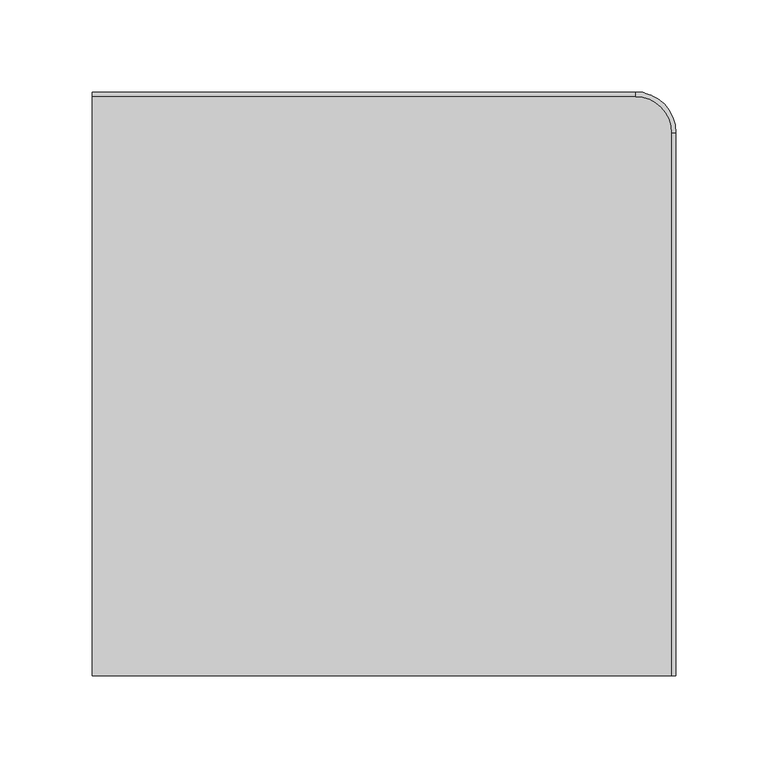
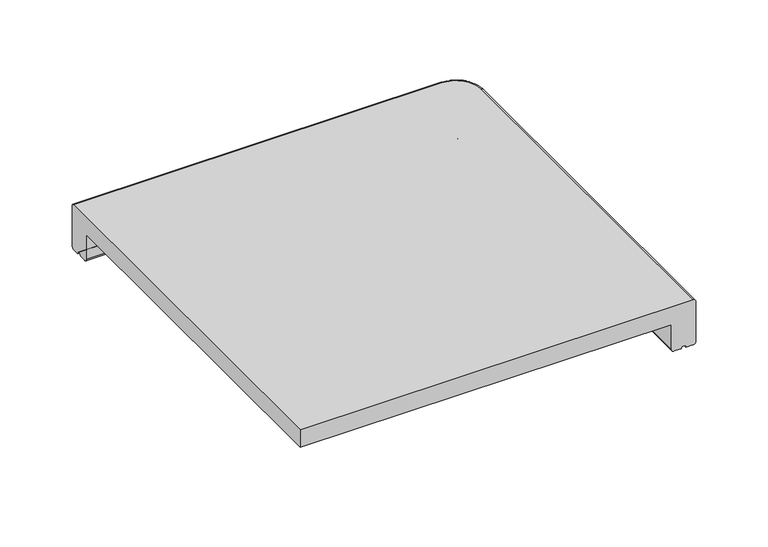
"""IFC4 building model written with IfcOpenShell, lengths in millimetres: proxy geometry, ROSA GRES_DL1 : Pieza DL1_Mistery_Grey_Anti-Slip."""

from ifc_helpers import new_model, si_unit, point, frame, origin, place, context, project, spatial, polyline, circle_curve, ellipse_curve, trimmed, source, transform, mapped, element, save
from ifc_brep_helpers import plane_surface, cylinder_surface, revolved_surface, advanced_brep


def generic_models_951569f7(model_context):
    return source(origin(), model_context, "Body", "AdvancedBrep", [
        advanced_brep(
        [(0.0, -317.0, 38.0), (0.0, -2.5, 38.0), (0.0, 0.0, 35.5), (0.0, 0.0, 2.5), (0.0, -2.5, 0.0), (0.0, -8.1382138, 0.0), (0.0, -11.8617862, 0.0), (0.0, -17.5, 0.0), (0.0, -20.0, 2.5), (0.0, -20.0, 23.2451288), (0.0, -317.0, 23.2451288), (314.5, -317.0, 38.0), (314.5, -22.0, 38.0), (295.0, -2.5, 38.0), (295.0, -20.0, 2.5), (295.0, -20.0, 23.2451288), (295.0, -17.5, 0.0), (295.0, -11.8617862, 0.0), (305.1382138, -22.0, 0.0), (305.1382138, -317.0, 0.0), (299.5, -317.0, 0.0), (299.5, -22.0, 0.0), (295.0, -8.1382138, 0.0), (295.0, -2.5, 0.0), (314.5, -22.0, 0.0), (314.5, -317.0, 0.0), (308.8617862, -317.0, 0.0), (308.8617862, -22.0, 0.0), (295.0, 0.0, 2.5), (295.0, 0.0, 35.5), (297.0, -22.0, 2.5), (297.0, -22.0, 23.2451288), (317.0, -22.0, 2.5), (317.0, -22.0, 35.5), (297.0, -317.0, 23.2451288), (297.0, -317.0, 2.5), (317.0, -317.0, 2.5), (317.0, -317.0, 35.5)],
        [
            (0, 1),
            (1, 2, circle_curve(frame((0.0, -2.5, 35.5), z_axis=(-1.0, 0.0, 0.0), x_axis=(0.0, 1.0, 0.0)), 2.5)),
            (2, 3),
            (3, 4, circle_curve(frame((0.0, -2.5, 2.5), z_axis=(-1.0, 0.0, 0.0), x_axis=(0.0, 1.0, 0.0)), 2.5)),
            (4, 5),
            (5, 6, circle_curve(frame((0.0, -10.0, 0.0), z_axis=(1.0, 0.0, 0.0), x_axis=(0.0, 1.0, 0.0)), 1.8617862)),
            (6, 7),
            (7, 8, circle_curve(frame((0.0, -17.5, 2.5), z_axis=(-1.0, 0.0, 0.0), x_axis=(0.0, 1.0, 0.0)), 2.5)),
            (8, 9),
            (9, 10),
            (10, 0),
            (0, 11),
            (11, 12),
            (12, 13, circle_curve(frame((295.0, -22.0, 38.0), z_axis=(0.0, 0.0, 1.0), x_axis=(0.0, 1.0, 0.0)), 19.5)),
            (13, 1),
            (14, 15),
            (15, 9),
            (8, 14),
            (7, 16),
            (16, 14, circle_curve(frame((295.0, -17.5, 2.5), z_axis=(-1.0, 0.0, 0.0), x_axis=(0.0, 1.0, 0.0)), 2.5)),
            (6, 17),
            (17, 18, circle_curve(frame((295.0, -22.0, 0.0), z_axis=(0.0, 0.0, -1.0), x_axis=(0.0, 1.0, 0.0)), 10.1382138)),
            (18, 19),
            (19, 20),
            (20, 21),
            (21, 16, circle_curve(frame((295.0, -22.0, 0.0), z_axis=(0.0, 0.0, 1.0), x_axis=(0.0, 1.0, 0.0)), 4.5)),
            (5, 22),
            (22, 17, circle_curve(frame((295.0, -10.0, 0.0), z_axis=(1.0, 0.0, 0.0), x_axis=(0.0, 1.0, 0.0)), 1.8617862)),
            (4, 23),
            (23, 24, circle_curve(frame((295.0, -22.0, 0.0), z_axis=(0.0, 0.0, -1.0), x_axis=(0.0, 1.0, 0.0)), 19.5)),
            (24, 25),
            (25, 26),
            (26, 27),
            (27, 22, circle_curve(frame((295.0, -22.0, 0.0), z_axis=(0.0, 0.0, 1.0), x_axis=(0.0, 1.0, 0.0)), 13.8617862)),
            (3, 28),
            (28, 23, circle_curve(frame((295.0, -2.5, 2.5), z_axis=(-1.0, 0.0, 0.0), x_axis=(0.0, 1.0, 0.0)), 2.5)),
            (2, 29),
            (29, 28),
            (13, 29, circle_curve(frame((295.0, -2.5, 35.5), z_axis=(-1.0, 0.0, 0.0), x_axis=(0.0, 1.0, 0.0)), 2.5)),
            (30, 31),
            (31, 15, circle_curve(frame((295.0, -22.0, 23.2451288), z_axis=(0.0, 0.0, 1.0), x_axis=(0.0, 1.0, 0.0)), 2.0)),
            (14, 30, circle_curve(frame((295.0, -22.0, 2.5), z_axis=(0.0, 0.0, -1.0), x_axis=(0.0, 1.0, 0.0)), 2.0)),
            (21, 30, circle_curve(frame((299.5, -22.0, 2.5), z_axis=(0.0, 1.0, 0.0), x_axis=(1.0, 0.0, 0.0)), 2.5)),
            (27, 18, circle_curve(frame((307.0, -22.0, 0.0), z_axis=(0.0, -1.0, 0.0), x_axis=(1.0, 0.0, 0.0)), 1.8617862)),
            (28, 32, circle_curve(frame((295.0, -22.0, 2.5), z_axis=(0.0, 0.0, -1.0), x_axis=(0.0, 1.0, 0.0)), 22.0)),
            (32, 24, circle_curve(frame((314.5, -22.0, 2.5), z_axis=(0.0, 1.0, 0.0), x_axis=(1.0, 0.0, 0.0)), 2.5)),
            (29, 33, circle_curve(frame((295.0, -22.0, 35.5), z_axis=(0.0, 0.0, -1.0), x_axis=(0.0, 1.0, 0.0)), 22.0)),
            (33, 32),
            (12, 33, circle_curve(frame((314.5, -22.0, 35.5), z_axis=(0.0, 1.0, 0.0), x_axis=(1.0, 0.0, 0.0)), 2.5)),
            (10, 34),
            (34, 35),
            (35, 20, circle_curve(frame((299.5, -317.0, 2.5), z_axis=(0.0, -1.0, 0.0), x_axis=(1.0, 0.0, 0.0)), 2.5)),
            (19, 26, circle_curve(frame((307.0, -317.0, 0.0), z_axis=(0.0, 1.0, 0.0), x_axis=(1.0, 0.0, 0.0)), 1.8617862)),
            (25, 36, circle_curve(frame((314.5, -317.0, 2.5), z_axis=(0.0, -1.0, 0.0), x_axis=(1.0, 0.0, 0.0)), 2.5)),
            (36, 37),
            (37, 11, circle_curve(frame((314.5, -317.0, 35.5), z_axis=(0.0, -1.0, 0.0), x_axis=(1.0, 0.0, 0.0)), 2.5)),
            (34, 31),
            (30, 35),
            (32, 36),
            (33, 37),
        ],
        [
            plane_surface(frame((0.0, 0.0, 0.0), z_axis=(-1.0, 0.0, 0.0), x_axis=(0.0, 0.0, 1.0))),
            plane_surface(frame((0.0, -2.5, 38.0), z_axis=(0.0, 0.0, 1.0), x_axis=(1.0, 0.0, 0.0))),
            plane_surface(frame((0.0, -20.0, 38.0), z_axis=(0.0, -1.0, 0.0), x_axis=(1.0, 0.0, 0.0))),
            cylinder_surface(frame((0.0, -17.5, 2.5), z_axis=(-1.0, 0.0, 0.0), x_axis=(0.0, 1.0, 0.0)), 2.5),
            plane_surface(frame((0.0, -17.5, 0.0), z_axis=(0.0, 0.0, -1.0), x_axis=(1.0, 0.0, 0.0))),
            revolved_surface(polyline([(295.0, -8.138213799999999, 0.0), (0.0, -8.138213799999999, 0.0)]), (0.0, -10.0, 0.0), (1.0, 0.0, 0.0)),
            plane_surface(frame((0.0, -8.1382138, 0.0), z_axis=(0.0, 0.0, -1.0), x_axis=(1.0, 0.0, 0.0))),
            cylinder_surface(frame((0.0, -2.5, 2.5), z_axis=(-1.0, 0.0, 0.0), x_axis=(0.0, 1.0, 0.0)), 2.5),
            plane_surface(frame((0.0, 0.0, 2.5), z_axis=(0.0, 1.0, 0.0), x_axis=(1.0, 0.0, 0.0))),
            cylinder_surface(frame((0.0, -2.5, 35.5), z_axis=(-1.0, 0.0, 0.0), x_axis=(0.0, 1.0, 0.0)), 2.5),
            revolved_surface(polyline([(295.0, -20.0, 23.2451288), (295.0, -20.0, 2.5)]), (295.0, -22.0, 0.0), (0.0, 0.0, 1.0)),
            revolved_surface(trimmed(ellipse_curve(frame((295.0, -17.5, 2.5), z_axis=(1.0, 0.0, 0.0), x_axis=(0.0, 1.0, 0.0)), 2.5, 2.5), [point((295.0, -20.0, 2.5))], [point((295.0, -17.5, 0.0))], True, "CARTESIAN"), (295.0, -22.0, 0.0), (0.0, 0.0, 1.0)),
            revolved_surface(trimmed(ellipse_curve(frame((295.0, -10.0, 0.0), z_axis=(-1.0, 0.0, 0.0), x_axis=(0.0, 1.0, 0.0)), 1.8617862, 1.8617862), [point((295.0, -11.8617862, 0.0))], [point((295.0, -8.1382138, 0.0))], True, "CARTESIAN"), (295.0, -22.0, 0.0), (0.0, 0.0, 1.0)),
            revolved_surface(trimmed(ellipse_curve(frame((295.0, -2.5, 2.5), z_axis=(1.0, 0.0, 0.0), x_axis=(0.0, 1.0, 0.0)), 2.5, 2.5), [point((295.0, -2.5, 0.0))], [point((295.0, 0.0, 2.5))], True, "CARTESIAN"), (295.0, -22.0, 0.0), (0.0, 0.0, 1.0)),
            cylinder_surface(frame((295.0, -22.0, 0.0), z_axis=(0.0, 0.0, 1.0), x_axis=(0.0, 1.0, 0.0)), 22.0),
            revolved_surface(trimmed(ellipse_curve(frame((295.0, -2.5, 35.5), z_axis=(1.0, 0.0, 0.0), x_axis=(0.0, 1.0, 0.0)), 2.5, 2.5), [point((295.0, 0.0, 35.5))], [point((295.0, -2.5, 38.0))], True, "CARTESIAN"), (295.0, -22.0, 0.0), (0.0, 0.0, 1.0)),
            plane_surface(frame((317.0, -317.0, 0.0), z_axis=(0.0, -1.0, 0.0), x_axis=(0.0, 0.0, 1.0))),
            plane_surface(frame((297.0, -22.0, 38.0), z_axis=(-1.0, 0.0, 0.0), x_axis=(0.0, -1.0, 0.0))),
            cylinder_surface(frame((299.5, -22.0, 2.5), z_axis=(0.0, 1.0, 0.0), x_axis=(1.0, 0.0, 0.0)), 2.5),
            revolved_surface(polyline([(308.8617862, -317.0, 0.0), (308.8617862, -22.0, 0.0)]), (307.0, -22.0, 0.0), (0.0, -1.0, 0.0)),
            cylinder_surface(frame((314.5, -22.0, 2.5), z_axis=(0.0, 1.0, 0.0), x_axis=(1.0, 0.0, 0.0)), 2.5),
            plane_surface(frame((317.0, -22.0, 2.5), z_axis=(1.0, 0.0, 0.0), x_axis=(0.0, -1.0, 0.0))),
            cylinder_surface(frame((314.5, -22.0, 35.5), z_axis=(0.0, 1.0, 0.0), x_axis=(1.0, 0.0, 0.0)), 2.5),
            plane_surface(frame((297.0, -20.0, 23.2451288), z_axis=(0.0, 0.0, -1.0), x_axis=(-1.0, 0.0, 0.0))),
        ],
        [
            (0, [[1, 2, 3, 4, 5, 6, 7, 8, 9, 10, 11]]),
            (1, [[12, 13, 14, 15, -1]]),
            (2, [[16, 17, -9, 18]]),
            (3, [[19, 20, -18, -8]]),
            (4, [[21, 22, 23, 24, 25, 26, -19, -7]]),
            (5, [[27, 28, -21, -6]]),
            (6, [[29, 30, 31, 32, 33, 34, -27, -5]]),
            (7, [[35, 36, -29, -4]]),
            (8, [[37, 38, -35, -3]]),
            (9, [[-15, 39, -37, -2]]),
            (10, [[40, 41, -16, 42]]),
            (11, [[-26, 43, -42, -20]]),
            (12, [[-28, -34, 44, -22]]),
            (13, [[-36, 45, 46, -30]]),
            (14, [[47, 48, -45, -38]]),
            (15, [[49, -47, -39, -14]]),
            (16, [[-11, 50, 51, 52, -24, 53, -32, 54, 55, 56, -12]]),
            (17, [[-51, 57, -40, 58]]),
            (18, [[-52, -58, -43, -25]]),
            (19, [[-44, -33, -53, -23]]),
            (20, [[-46, 59, -54, -31]]),
            (21, [[60, -55, -59, -48]]),
            (22, [[-56, -60, -49, -13]]),
            (23, [[-17, -41, -57, -50, -10]]),
        ],
    ),
    ])


if __name__ == "__main__":
    model = new_model("IFC4")
    model_context = context("Model", 3, world=origin())
    ifc_project = project(units=[si_unit("LENGTHUNIT", "METRE", prefix="MILLI")], contexts=[model_context])
    site = spatial("IfcSite", under=ifc_project)
    building = spatial("IfcBuilding", under=site)
    placement = place(None, origin())
    generic_models_shape = generic_models_951569f7(model_context)
    element("IfcBuildingElementProxy", 1, Name="ROSA GRES_DL1 : Pieza DL1_Mistery_Grey_Anti-Slip", ObjectType="ROSA GRES_DL1 : Pieza DL1_Mistery_Grey_Anti-Slip", at=placement, inside=building, context=model_context, shape_type="MappedRepresentation", body=[
        mapped(generic_models_shape, transform((0.0, 0.0, 0.0), x_axis=(1.0, 0.0, 0.0), y_axis=(0.0, 1.0, 0.0), z_axis=(0.0, 0.0, 1.0))),
    ])
    save(model, "model.ifc")
